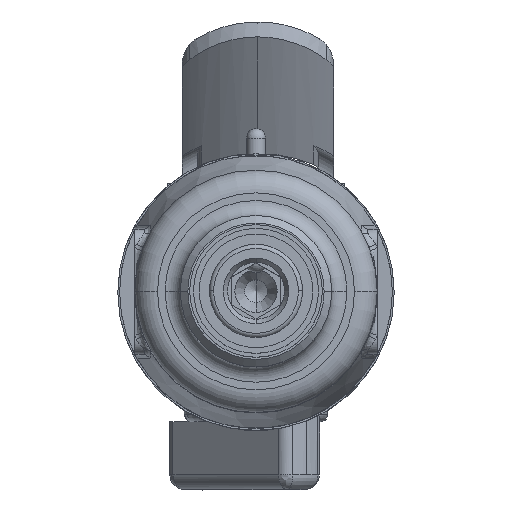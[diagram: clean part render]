
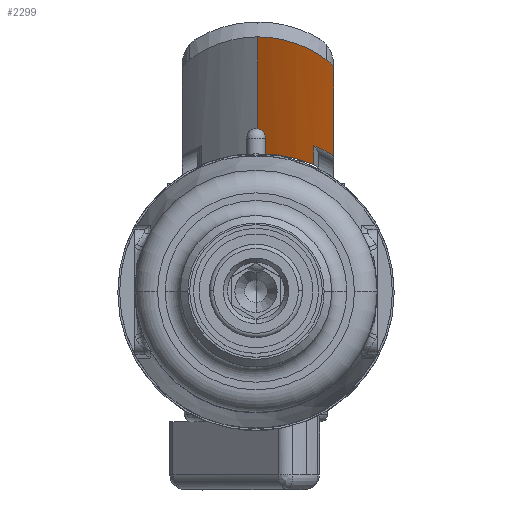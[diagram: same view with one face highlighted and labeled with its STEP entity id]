
A CAD part, top view. The second image highlights one B-rep face of the part: STEP entity #2299.
In plain terms, the highlighted cylindrical face has radius 19 mm (diameter 38 mm), a partial arc.
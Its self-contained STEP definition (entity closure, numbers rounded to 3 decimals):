
#1352 = ORIENTED_EDGE ( 'NONE', *, *, #2139, .T. ) ;
#2139 = EDGE_CURVE ( 'NONE', #2312, #2140, #12297, .T. ) ;
#2140 = VERTEX_POINT ( 'NONE', #12292 ) ;
#2192 = ORIENTED_EDGE ( 'NONE', *, *, #2193, .F. ) ;
#2193 = EDGE_CURVE ( 'NONE', #2194, #2140, #12345, .T. ) ;
#2194 = VERTEX_POINT ( 'NONE', #12341 ) ;
#2195 = ORIENTED_EDGE ( 'NONE', *, *, #2196, .T. ) ;
#2196 = EDGE_CURVE ( 'NONE', #2194, #2302, #12338, .T. ) ;
#2299 = ADVANCED_FACE ( 'NONE', ( #12544 ), #12527, .F. ) ;
#2300 = ORIENTED_EDGE ( 'NONE', *, *, #2301, .T. ) ;
#2301 = EDGE_CURVE ( 'NONE', #2302, #2303, #12574, .T. ) ;
#2302 = VERTEX_POINT ( 'NONE', #12575 ) ;
#2303 = VERTEX_POINT ( 'NONE', #12576 ) ;
#2304 = ORIENTED_EDGE ( 'NONE', *, *, #2305, .T. ) ;
#2305 = EDGE_CURVE ( 'NONE', #2303, #2306, #12557, .T. ) ;
#2306 = VERTEX_POINT ( 'NONE', #12570 ) ;
#2307 = ORIENTED_EDGE ( 'NONE', *, *, #2308, .F. ) ;
#2308 = EDGE_CURVE ( 'NONE', #2309, #2306, #12619, .T. ) ;
#2309 = VERTEX_POINT ( 'NONE', #12614 ) ;
#2310 = ORIENTED_EDGE ( 'NONE', *, *, #2311, .T. ) ;
#2311 = EDGE_CURVE ( 'NONE', #2309, #2312, #12613, .T. ) ;
#2312 = VERTEX_POINT ( 'NONE', #12609 ) ;
#2328 = EDGE_LOOP ( 'NONE', ( #2300, #2304, #2307, #2310, #1352, #2192, #2195 ) ) ;
#12292 = CARTESIAN_POINT ( 'NONE',  ( 10., -13., 9.055 ) ) ;
#12293 = DIRECTION ( 'NONE',  ( 0., 0., -1. ) ) ;
#12294 = DIRECTION ( 'NONE',  ( 0., 1., 0. ) ) ;
#12295 = CARTESIAN_POINT ( 'NONE',  ( 0., -13., -7.1 ) ) ;
#12296 = AXIS2_PLACEMENT_3D ( 'NONE', #12295, #12294, #12293 ) ;
#12297 = CIRCLE ( 'NONE', #12296, 19. ) ;
#12331 = CARTESIAN_POINT ( 'NONE',  ( 9.82, -74.502, 9.166 ) ) ;
#12332 = CARTESIAN_POINT ( 'NONE',  ( 9.888, -74.264, 9.125 ) ) ;
#12333 = CARTESIAN_POINT ( 'NONE',  ( 9.977, -73.785, 9.07 ) ) ;
#12334 = CARTESIAN_POINT ( 'NONE',  ( 10., -73.541, 9.055 ) ) ;
#12335 = CARTESIAN_POINT ( 'NONE',  ( 10., -73.292, 9.055 ) ) ;
#12338 = B_SPLINE_CURVE_WITH_KNOTS ( 'NONE', 3,
 ( #12335, #12334, #12333, #12332, #12331, #12394, #12393, #12392, #12391, #12390 ),
 .UNSPECIFIED., .F., .F.,
 ( 4, 2, 2, 2, 4 ),
 ( 0., 0.001, 0.001, 0.002, 0.003 ),
 .UNSPECIFIED. ) ;
#12341 = CARTESIAN_POINT ( 'NONE',  ( 10., -73.292, 9.055 ) ) ;
#12342 = DIRECTION ( 'NONE',  ( 0., 1., 0. ) ) ;
#12343 = VECTOR ( 'NONE', #12342, 1000. ) ;
#12344 = CARTESIAN_POINT ( 'NONE',  ( 10., -80., 9.055 ) ) ;
#12345 = LINE ( 'NONE', #12344, #12343 ) ;
#12390 = CARTESIAN_POINT ( 'NONE',  ( 9., -75.937, 9.633 ) ) ;
#12391 = CARTESIAN_POINT ( 'NONE',  ( 9.155, -75.762, 9.55 ) ) ;
#12392 = CARTESIAN_POINT ( 'NONE',  ( 9.296, -75.571, 9.471 ) ) ;
#12393 = CARTESIAN_POINT ( 'NONE',  ( 9.542, -75.166, 9.331 ) ) ;
#12394 = CARTESIAN_POINT ( 'NONE',  ( 9.647, -74.952, 9.269 ) ) ;
#12527 = CYLINDRICAL_SURFACE ( 'NONE', #12590, 19. ) ;
#12544 = FACE_OUTER_BOUND ( 'NONE', #2328, .T. ) ;
#12557 = LINE ( 'NONE', #12573, #12572 ) ;
#12558 = CARTESIAN_POINT ( 'NONE',  ( 0., -80., 11.9 ) ) ;
#12559 = CARTESIAN_POINT ( 'NONE',  ( 0.877, -80., 11.9 ) ) ;
#12560 = CARTESIAN_POINT ( 'NONE',  ( 1.738, -79.905, 11.84 ) ) ;
#12561 = CARTESIAN_POINT ( 'NONE',  ( 3.009, -79.625, 11.665 ) ) ;
#12562 = CARTESIAN_POINT ( 'NONE',  ( 3.432, -79.507, 11.592 ) ) ;
#12563 = CARTESIAN_POINT ( 'NONE',  ( 4.248, -79.231, 11.424 ) ) ;
#12564 = CARTESIAN_POINT ( 'NONE',  ( 4.642, -79.074, 11.328 ) ) ;
#12565 = CARTESIAN_POINT ( 'NONE',  ( 5.79, -78.544, 11.014 ) ) ;
#12566 = CARTESIAN_POINT ( 'NONE',  ( 6.509, -78.116, 10.765 ) ) ;
#12567 = CARTESIAN_POINT ( 'NONE',  ( 7.853, -77.112, 10.216 ) ) ;
#12568 = CARTESIAN_POINT ( 'NONE',  ( 8.457, -76.553, 9.925 ) ) ;
#12569 = CARTESIAN_POINT ( 'NONE',  ( 9., -75.937, 9.633 ) ) ;
#12570 = CARTESIAN_POINT ( 'NONE',  ( 0., 0., 11.9 ) ) ;
#12571 = DIRECTION ( 'NONE',  ( 0., 1., 0. ) ) ;
#12572 = VECTOR ( 'NONE', #12571, 1000. ) ;
#12573 = CARTESIAN_POINT ( 'NONE',  ( 0., -10., 11.9 ) ) ;
#12574 = B_SPLINE_CURVE_WITH_KNOTS ( 'NONE', 3,
 ( #12569, #12568, #12567, #12566, #12565, #12564, #12563, #12562, #12561, #12560, #12559, #12558 ),
 .UNSPECIFIED., .F., .F.,
 ( 4, 2, 2, 2, 2, 4 ),
 ( 0.002, 0.004, 0.007, 0.008, 0.01, 0.012 ),
 .UNSPECIFIED. ) ;
#12575 = CARTESIAN_POINT ( 'NONE',  ( 9., -75.937, 9.633 ) ) ;
#12576 = CARTESIAN_POINT ( 'NONE',  ( 0., -80., 11.9 ) ) ;
#12577 = DIRECTION ( 'NONE',  ( 0., 0., 1. ) ) ;
#12578 = DIRECTION ( 'NONE',  ( 0., 1., 0. ) ) ;
#12589 = CARTESIAN_POINT ( 'NONE',  ( 0., -10., -7.1 ) ) ;
#12590 = AXIS2_PLACEMENT_3D ( 'NONE', #12589, #12578, #12577 ) ;
#12609 = CARTESIAN_POINT ( 'NONE',  ( 7.389, -13., 10.404 ) ) ;
#12610 = DIRECTION ( 'NONE',  ( 0., -1., 0. ) ) ;
#12611 = VECTOR ( 'NONE', #12610, 1000. ) ;
#12612 = CARTESIAN_POINT ( 'NONE',  ( 7.389, -10., 10.404 ) ) ;
#12613 = LINE ( 'NONE', #12612, #12611 ) ;
#12614 = CARTESIAN_POINT ( 'NONE',  ( 7.389, 0., 10.404 ) ) ;
#12615 = DIRECTION ( 'NONE',  ( 0., 0., -1. ) ) ;
#12616 = DIRECTION ( 'NONE',  ( 0., -1., 0. ) ) ;
#12617 = CARTESIAN_POINT ( 'NONE',  ( 0., 0., -7.1 ) ) ;
#12618 = AXIS2_PLACEMENT_3D ( 'NONE', #12617, #12616, #12615 ) ;
#12619 = CIRCLE ( 'NONE', #12618, 19. ) ;
